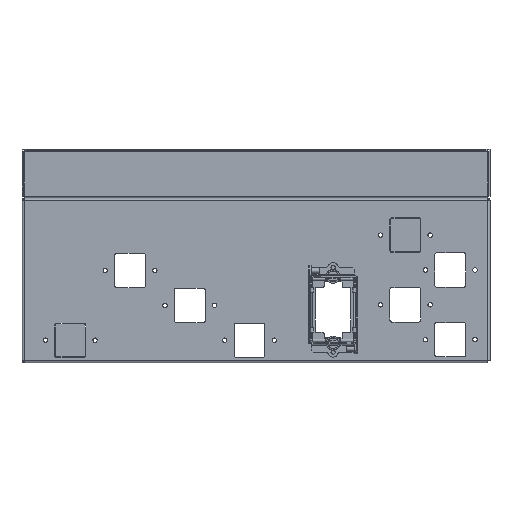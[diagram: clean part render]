
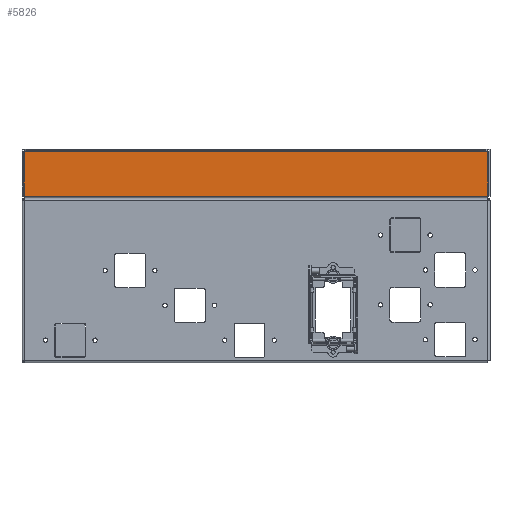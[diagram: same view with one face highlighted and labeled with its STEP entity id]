
A CAD part, top view. The second image highlights one B-rep face of the part: STEP entity #5826.
In plain terms, the highlighted planar face has unit normal (0, 0, 1).
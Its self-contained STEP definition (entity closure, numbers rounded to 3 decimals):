
#5181=CARTESIAN_POINT(' ',(-232.9,22.5,0.));
#5182=VERTEX_POINT(' ',#5181);
#5276=CARTESIAN_POINT(' ',(232.9,22.5,0.));
#5281=DIRECTION(' ',(-1.,0.,0.));
#5286=VECTOR(' ',#5281,1.);
#5291=LINE('',#5276,#5286);
#5296=CARTESIAN_POINT(' ',(232.9,22.5,0.));
#5297=VERTEX_POINT(' ',#5296);
#5301=EDGE_CURVE(' ',#5297,#5182,#5291,.T.);
#5651=CARTESIAN_POINT(' ',(-232.9,-22.5,0.));
#5652=VERTEX_POINT(' ',#5651);
#5666=CARTESIAN_POINT(' ',(-232.9,22.5,0.));
#5671=DIRECTION(' ',(0.,-1.,0.));
#5676=VECTOR(' ',#5671,1.);
#5681=LINE('',#5666,#5676);
#5686=EDGE_CURVE(' ',#5182,#5652,#5681,.T.);
#5716=DIRECTION(' ',(0.,-0.,1.));
#5721=CARTESIAN_POINT(' ',(-232.9,-22.5,0.));
#5726=DIRECTION(' ',(1.,0.,-0.));
#5731=AXIS2_PLACEMENT_3D(' ',#5721,#5716,#5726);
#5736=PLANE('NONE',#5731);
#5741=ORIENTED_EDGE(' ',*,*,#5686,.T.);
#5746=CARTESIAN_POINT(' ',(-232.9,-22.5,0.));
#5751=DIRECTION(' ',(1.,0.,0.));
#5756=VECTOR(' ',#5751,1.);
#5761=LINE('',#5746,#5756);
#5766=CARTESIAN_POINT(' ',(232.9,-22.5,0.));
#5767=VERTEX_POINT(' ',#5766);
#5771=EDGE_CURVE(' ',#5652,#5767,#5761,.T.);
#5776=ORIENTED_EDGE(' ',*,*,#5771,.T.);
#5781=CARTESIAN_POINT(' ',(232.9,-22.5,0.));
#5786=DIRECTION(' ',(0.,1.,0.));
#5791=VECTOR(' ',#5786,1.);
#5796=LINE('',#5781,#5791);
#5801=EDGE_CURVE(' ',#5767,#5297,#5796,.T.);
#5806=ORIENTED_EDGE(' ',*,*,#5801,.T.);
#5811=ORIENTED_EDGE(' ',*,*,#5301,.T.);
#5816=EDGE_LOOP(' ',(#5741,#5776,#5806,#5811));
#5821=FACE_OUTER_BOUND(' ',#5816,.T.);
#5826=ADVANCED_FACE('NONE',(#5821),#5736,.T.);
